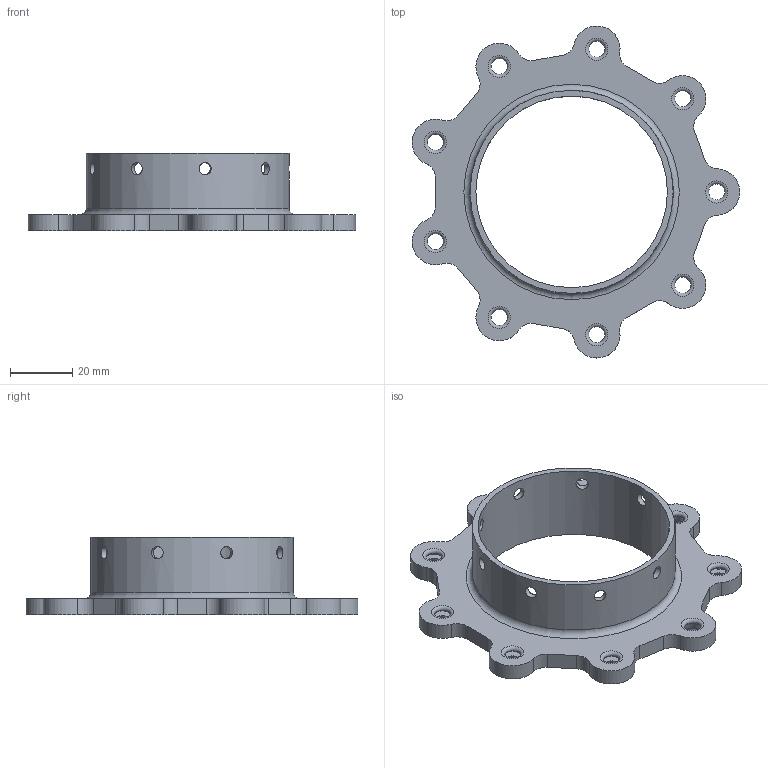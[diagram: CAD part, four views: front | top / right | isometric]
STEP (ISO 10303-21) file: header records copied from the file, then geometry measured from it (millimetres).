
FILE_DESCRIPTION(/* description */ (''),/* implementation_level */ '2;1');
FILE_NAME(/* name */ 'Booster-Lehre.stp',/* time_stamp */ '2026-03-30T18:50:18+02:00',/* author */ ('rs22sud'),/* organization */ (''),/* preprocessor_version */ 'ST-DEVELOPER v20.1',/* originating_system */ 'Autodesk Inventor 2026',/* authorisation */ '');
FILE_SCHEMA (('AUTOMOTIVE_DESIGN { 1 0 10303 214 3 1 1 }'));
Length unit declared in the file: millimetre
Products named in the file (1): Delta_2_60mm
Bounding box: 105.68 x 107.08 x 25 mm (x, y, z)
Volume: 28472.1 mm3; surface area: 19646.9 mm2
Topology: 1 solids, 1 shells, 87 faces, 259 edges, 175 vertices
Faces by surface type: cylinder 38, torus 19, plane 12, sphere 9, cone 9
Full cylindrical faces by diameter (mm): 4 x9, 61.8 x1, 65.5 x1
Entity records: 3713 total; most frequent: CARTESIAN_POINT 1134, DIRECTION 548, ORIENTED_EDGE 518, EDGE_CURVE 259, AXIS2_PLACEMENT_3D 237, VERTEX_POINT 175, CIRCLE 149, EDGE_LOOP 126
